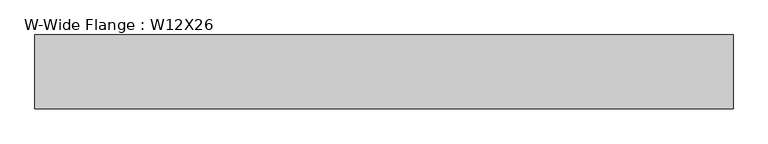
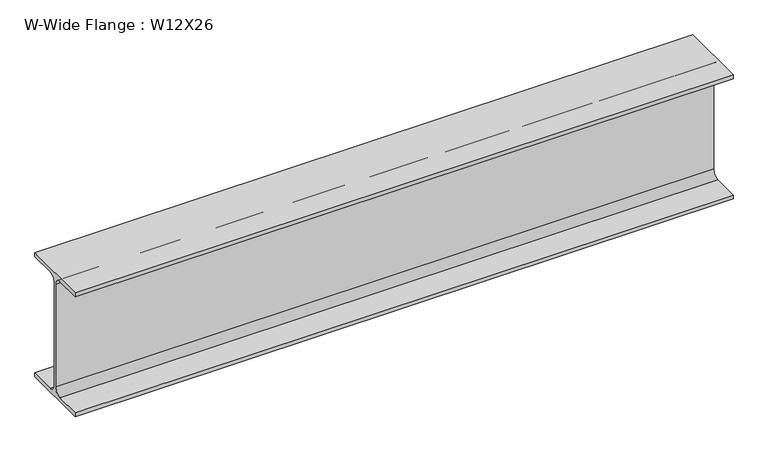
"""IFC4 building model written with IfcOpenShell, lengths in millimetres: beam geometry, W-Wide Flange : W12X26."""

import ifcopenshell
import ifcopenshell.guid

model = None  # the IFC model being written
_history = None  # IfcOwnerHistory: only IFC2X3 demands one
_inside = {}  # id of a spatial element -> (the spatial element, [elements in it])
_under = {}  # id of a project, library or spatial element -> (it, [spatial elements below it])
_declared = {}  # id of a project -> (the project, [libraries it declares])
_typed = {}  # id of a type object -> (the type object, [elements of that type])
_made_of = {}  # id of a material, layer set ... -> (it, [elements and type objects made of it])


def new_model(schema):
    """Start an empty IFC model of exactly this schema.

    Asked for "IFC4X3", IfcOpenShell would pick the latest addendum, in which some entities
    have other attributes; the version numbers below select the first issue.
    IFC2X3 requires an IfcOwnerHistory on every rooted entity: one is made here for all.
    """
    global model, _history
    if schema == "IFC4X3":
        model = ifcopenshell.file(schema_version=(4, 3, 0, 0))
    else:
        model = ifcopenshell.file(schema=schema)
    _inside.clear()
    _under.clear()
    _declared.clear()
    _typed.clear()
    _made_of.clear()
    _history = None
    if model.schema == "IFC2X3":
        org = make("IfcOrganization", Name="unknown")
        user = make(
            "IfcPersonAndOrganization",
            ThePerson=make("IfcPerson", FamilyName="unknown"),
            TheOrganization=org,
        )
        app = make(
            "IfcApplication",
            ApplicationDeveloper=org,
            Version="unknown",
            ApplicationFullName="unknown",
            ApplicationIdentifier="unknown",
        )
        _history = make(
            "IfcOwnerHistory",
            OwningUser=user,
            OwningApplication=app,
            ChangeAction="ADDED",
            CreationDate=0,
        )
    return model


def make(cls, **values):
    """One entity of the class cls with the attributes given. An attribute that is None is left unset."""
    return model.create_entity(
        cls, **{name: value for name, value in values.items() if value is not None}
    )


def rooted(cls, **values):
    """An entity with a GlobalId (a new one), such as an element, a storey or a relation."""
    return make(cls, GlobalId=ifcopenshell.guid.new(), OwnerHistory=_history, **values)


def si_unit(unit_type, name, prefix=None):
    """IfcSIUnit, for example si_unit("LENGTHUNIT", "METRE", prefix="MILLI")."""
    return make("IfcSIUnit", UnitType=unit_type, Prefix=prefix, Name=name)


def assignment(units):
    """IfcUnitAssignment: the units of a project."""
    return None if units is None else make("IfcUnitAssignment", Units=units)


def point(xyz):
    """IfcCartesianPoint."""
    return None if xyz is None else make("IfcCartesianPoint", Coordinates=xyz)


def direction(xyz):
    """IfcDirection."""
    return None if xyz is None else make("IfcDirection", DirectionRatios=xyz)


def frame(location, z_axis=None, x_axis=None):
    """IfcAxis2Placement3D, a coordinate frame: its origin and axes. An axis left out is left unset."""
    return make(
        "IfcAxis2Placement3D",
        Location=point(location),
        Axis=direction(z_axis),
        RefDirection=direction(x_axis),
    )


def frame_2d(location, x_axis=None):
    """IfcAxis2Placement2D, a coordinate frame in the plane: its origin and x axis."""
    return make(
        "IfcAxis2Placement2D", Location=point(location), RefDirection=direction(x_axis)
    )


def origin():
    """The frame at (0, 0, 0) with its axes left unset."""
    return frame((0.0, 0.0, 0.0))


def place(relative_to, where):
    """IfcLocalPlacement: puts the frame where relative to a parent placement (None: the world)."""
    return make(
        "IfcLocalPlacement", PlacementRelTo=relative_to, RelativePlacement=where
    )


def context(
    kind, dimensions, precision=None, world=None, true_north=None, identifier=None
):
    """IfcGeometricRepresentationContext, for example the 3D "Model" context."""
    return make(
        "IfcGeometricRepresentationContext",
        ContextIdentifier=identifier,
        ContextType=kind,
        CoordinateSpaceDimension=dimensions,
        Precision=precision,
        WorldCoordinateSystem=world,
        TrueNorth=true_north,
    )


def project(units=None, contexts=None):
    """IfcProject with its units and contexts."""
    return rooted(
        "IfcProject",
        Name="project",
        RepresentationContexts=contexts,
        UnitsInContext=assignment(units),
    )


def spatial(cls, under=None, at=None, **own):
    """A site, building, storey or space (cls), placed at a placement, below another one or the project."""
    s = rooted(cls, ObjectPlacement=at, **own)
    if under is not None:
        _under.setdefault(under.id(), (under, []))[1].append(s)
    return s


def polyline(points):
    """IfcPolyline through the points."""
    return make("IfcPolyline", Points=[point(p) for p in points])


def circle_curve(where, radius):
    """IfcCircle in the frame where."""
    return make("IfcCircle", Position=where, Radius=radius)


def trimmed(basis, trim1, trim2, sense, master):
    """IfcTrimmedCurve: the piece of a basis curve between two trims."""
    return make(
        "IfcTrimmedCurve",
        BasisCurve=basis,
        Trim1=trim1,
        Trim2=trim2,
        SenseAgreement=sense,
        MasterRepresentation=master,
    )


def segment(curve, same_sense, transition):
    """IfcCompositeCurveSegment."""
    return make(
        "IfcCompositeCurveSegment",
        Transition=transition,
        SameSense=same_sense,
        ParentCurve=curve,
    )


def composite_curve(segments, self_intersect=None):
    """IfcCompositeCurve: segments joined end to end."""
    return make("IfcCompositeCurve", Segments=segments, SelfIntersect=self_intersect)


def outline(outer, holes=None, kind="AREA"):
    """IfcArbitraryClosedProfileDef: a profile drawn as a closed curve; with holes, ...WithVoids."""
    if holes is None:
        return make("IfcArbitraryClosedProfileDef", ProfileType=kind, OuterCurve=outer)
    return make(
        "IfcArbitraryProfileDefWithVoids",
        ProfileType=kind,
        OuterCurve=outer,
        InnerCurves=holes,
    )


def extrude(swept, where, along, depth):
    """IfcExtrudedAreaSolid: the profile swept, set in the frame where, extruded along a direction by depth."""
    return make(
        "IfcExtrudedAreaSolid",
        SweptArea=swept,
        Position=where,
        ExtrudedDirection=direction(along),
        Depth=depth,
    )


def shape(context_of_items, identifier, shape_type, items):
    """IfcShapeRepresentation: the items that make up one representation, for example the "Body"."""
    return make(
        "IfcShapeRepresentation",
        ContextOfItems=context_of_items,
        RepresentationIdentifier=identifier,
        RepresentationType=shape_type,
        Items=items,
    )


def source(mapping_origin, context_of_items, identifier, shape_type, items):
    """IfcRepresentationMap: a shape defined once, which mapped items show again and again."""
    return make(
        "IfcRepresentationMap",
        MappingOrigin=mapping_origin,
        MappedRepresentation=shape(context_of_items, identifier, shape_type, items),
    )


def transform(
    local_origin,
    x_axis=None,
    y_axis=None,
    z_axis=None,
    scale=None,
    scale2=None,
    scale3=None,
    uniform=True,
):
    """IfcCartesianTransformationOperator3D, or its non-uniform kind. x_axis, y_axis, z_axis: its Axis1, 2, 3."""
    if uniform:
        return make(
            "IfcCartesianTransformationOperator3D",
            Axis1=direction(x_axis),
            Axis2=direction(y_axis),
            LocalOrigin=point(local_origin),
            Scale=scale,
            Axis3=direction(z_axis),
        )
    return make(
        "IfcCartesianTransformationOperator3DnonUniform",
        Axis1=direction(x_axis),
        Axis2=direction(y_axis),
        LocalOrigin=point(local_origin),
        Scale=scale,
        Axis3=direction(z_axis),
        Scale2=scale2,
        Scale3=scale3,
    )


def mapped(mapping_source, mapping_target):
    """IfcMappedItem: shows the shape of a source again, moved by a transform."""
    return make(
        "IfcMappedItem", MappingSource=mapping_source, MappingTarget=mapping_target
    )


def made_of(thing, what):
    """Note that an element or type object is made of a material, layer set ...; save() writes the relation."""
    if what is not None:
        _made_of.setdefault(what.id(), (what, []))[1].append(thing)
    return thing


def element(
    cls,
    number,
    at=None,
    inside=None,
    cuts=None,
    type_object=None,
    material=None,
    context=None,
    identifier="Body",
    shape_type=None,
    held_by="IfcProductDefinitionShape",
    body=None,
    shapes=None,
    **own,
):
    """One element of the class cls, such as IfcWall. Its Tag is "e" and its number.

    at: its placement. inside: the storey or other place that contains it. cuts: it is an
    opening in that element (IfcRelVoidsElement). A single representation is given by context,
    identifier, shape_type and body (its items); several are given by shapes. held_by: the class
    of the entity that holds the representations. save() writes the other relations.
    """
    e = rooted(cls, Tag="e%d" % number, ObjectPlacement=at, **own)
    if body is not None:
        shapes = [shape(context, identifier, shape_type, body)]
    if shapes is not None:
        e.Representation = make(held_by, Representations=shapes)
    if inside is not None:
        _inside.setdefault(inside.id(), (inside, []))[1].append(e)
    if cuts is not None:
        rooted(
            "IfcRelVoidsElement", RelatingBuildingElement=cuts, RelatedOpeningElement=e
        )
    if type_object is not None:
        _typed.setdefault(type_object.id(), (type_object, []))[1].append(e)
    return made_of(e, material)


def aggregate(whole, parts):
    """IfcRelAggregates: a whole, such as a stair, and the parts it consists of."""
    return rooted("IfcRelAggregates", RelatingObject=whole, RelatedObjects=parts)


def save(model, path):
    """Write the relations noted so far, then the file.

    IfcRelAggregates (storeys below a building ...), IfcRelContainedInSpatialStructure (elements
    in a storey), IfcRelDefinesByType, IfcRelAssociatesMaterial and IfcRelDeclares: one each for
    every whole, place, type object, material and project.
    """
    for whole, parts in _under.values():
        aggregate(whole, parts)
    for where, things in _inside.values():
        rooted(
            "IfcRelContainedInSpatialStructure",
            RelatedElements=things,
            RelatingStructure=where,
        )
    for kind, things in _typed.values():
        rooted("IfcRelDefinesByType", RelatedObjects=things, RelatingType=kind)
    for what, things in _made_of.values():
        rooted("IfcRelAssociatesMaterial", RelatedObjects=things, RelatingMaterial=what)
    for by, libraries in _declared.values():
        rooted("IfcRelDeclares", RelatingContext=by, RelatedDefinitions=libraries)
    model.write(path)


def w_wide_flange_w12x26_481373e5(model_context):
    return source(origin(), model_context, "Body", "SweptSolid", [
        extrude(outline(composite_curve([segment(polyline([(82.4011719, -145.5539063), (82.4011719, -155.178125), (-82.4011719, -155.178125), (-82.4011719, -145.5539063), (-20.2902344, -145.5539063)]), True, "CONTINUOUS"), segment(trimmed(circle_curve(frame_2d((-20.2902344, -128.190625)), 17.3632812), [point((-20.2902344, -145.5539063))], [point((-2.9269531, -128.190625))], True, "CARTESIAN"), True, "CONTINUOUS"), segment(polyline([(-2.9269531, -128.190625), (-2.9269531, 128.190625)]), True, "CONTINUOUS"), segment(trimmed(circle_curve(frame_2d((-20.2902344, 128.190625)), 17.3632812), [point((-2.9269531, 128.190625))], [point((-20.2902344, 145.5539062))], True, "CARTESIAN"), True, "CONTINUOUS"), segment(polyline([(-20.2902344, 145.5539062), (-82.4011719, 145.5539062), (-82.4011719, 155.178125), (82.4011719, 155.178125), (82.4011719, 145.5539062), (20.2902344, 145.5539062)]), True, "CONTINUOUS"), segment(trimmed(circle_curve(frame_2d((20.2902344, 128.190625)), 17.3632812), [point((20.2902344, 145.5539062))], [point((2.9269531, 128.190625))], True, "CARTESIAN"), True, "CONTINUOUS"), segment(polyline([(2.9269531, 128.190625), (2.9269531, -128.190625)]), True, "CONTINUOUS"), segment(trimmed(circle_curve(frame_2d((20.2902344, -128.190625)), 17.3632812), [point((2.9269531, -128.190625))], [point((20.2902344, -145.5539063))], True, "CARTESIAN"), True, "CONTINUOUS"), segment(polyline([(20.2902344, -145.5539063), (82.4011719, -145.5539063)]), True, "CONTINUOUS")], self_intersect=False)), frame((-783.4151988, 0.0, 0.0), z_axis=(1.0, 0.0, 0.0), x_axis=(0.0, 1.0, 0.0)), (0.0, 0.0, 1.0), 1557.6384395),
    ])


if __name__ == "__main__":
    model = new_model("IFC4")
    model_context = context("Model", 3, world=origin())
    ifc_project = project(units=[si_unit("LENGTHUNIT", "METRE", prefix="MILLI")], contexts=[model_context])
    site = spatial("IfcSite", under=ifc_project)
    building = spatial("IfcBuilding", under=site)
    placement = place(None, origin())
    w_wide_flange_w12x26_shape = w_wide_flange_w12x26_481373e5(model_context)
    element("IfcBeam", 1, ObjectType="W-Wide Flange : W12X26", at=placement, inside=building, context=model_context, shape_type="MappedRepresentation", body=[
        mapped(w_wide_flange_w12x26_shape, transform((0.0, 0.0, 0.0), x_axis=(1.0, 0.0, 0.0), y_axis=(0.0, 1.0, 0.0), z_axis=(0.0, 0.0, 1.0))),
    ])
    save(model, "model.ifc")
